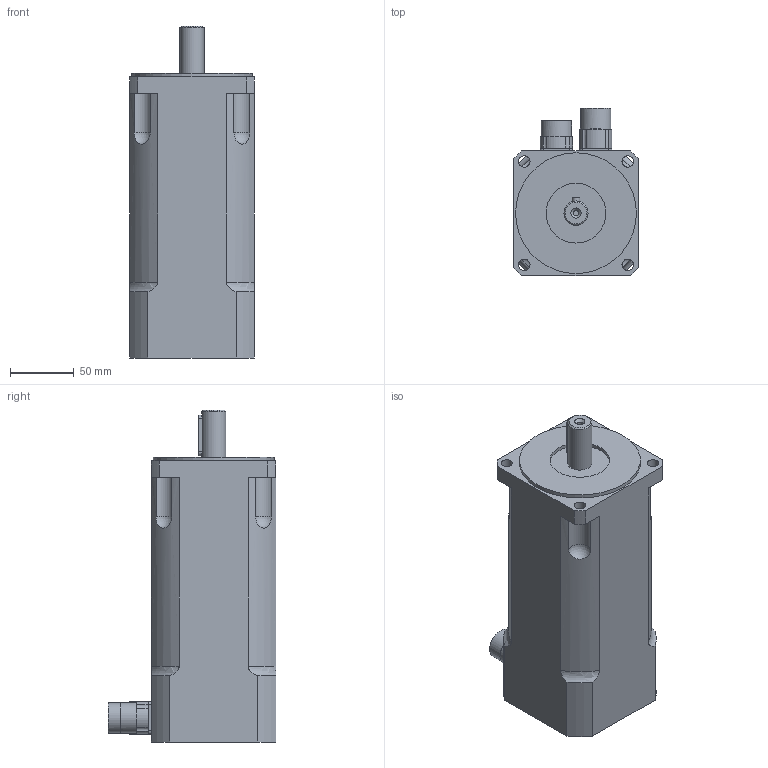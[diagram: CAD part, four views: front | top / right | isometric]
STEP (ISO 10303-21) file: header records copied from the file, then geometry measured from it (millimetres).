
FILE_DESCRIPTION(/* description */ ('Alibre Inc.'),/* implementation_level */ '2;1');
FILE_NAME(/* name */ 'export2',/* time_stamp */ '2013-05-02T08:21:34+02:00',/* author */ (''),/* organization */ (''),/* preprocessor_version */ 'ST-DEVELOPER v12',/* originating_system */ 'Alibre',/* authorisation */ '');
FILE_SCHEMA (('CONFIG_CONTROL_DESIGN'));
Length unit declared in the file: centimetre
Products named in the file (5): ID_1; ID_2
Bounding box: 98 x 132 x 261 mm (x, y, z)
Volume: 1999191 mm3; surface area: 114364 mm2
Topology: 4 solids, 4 shells, 135 faces, 342 edges, 222 vertices
Faces by surface type: cylinder 66, plane 59, torus 4, sphere 4, cone 2
Full cylindrical faces by diameter (mm): 2.7 x8, 4.134 x1, 9 x4, 19 x1, 20 x4, 24 x2, 47 x1, 95 x1
Entity records: 5052 total; most frequent: CARTESIAN_POINT 1365, DIRECTION 667, ORIENTED_EDGE 620, EDGE_CURVE 310, AXIS2_PLACEMENT_3D 303, VERTEX_POINT 214, EDGE_LOOP 194, FACE_BOUND 194
